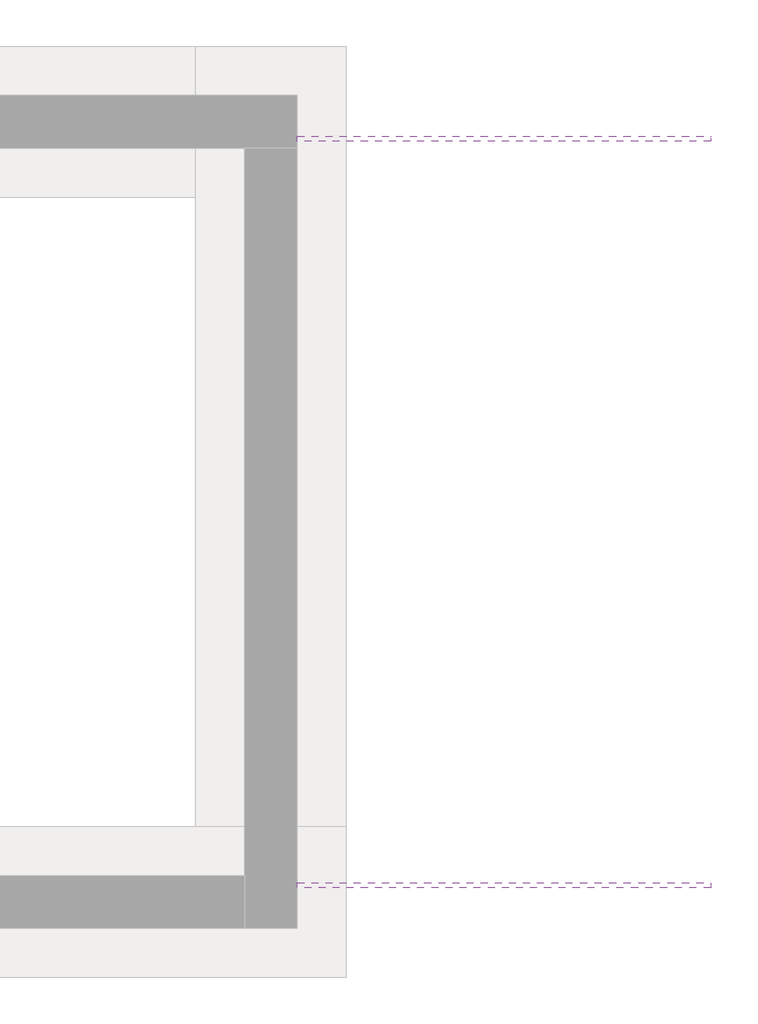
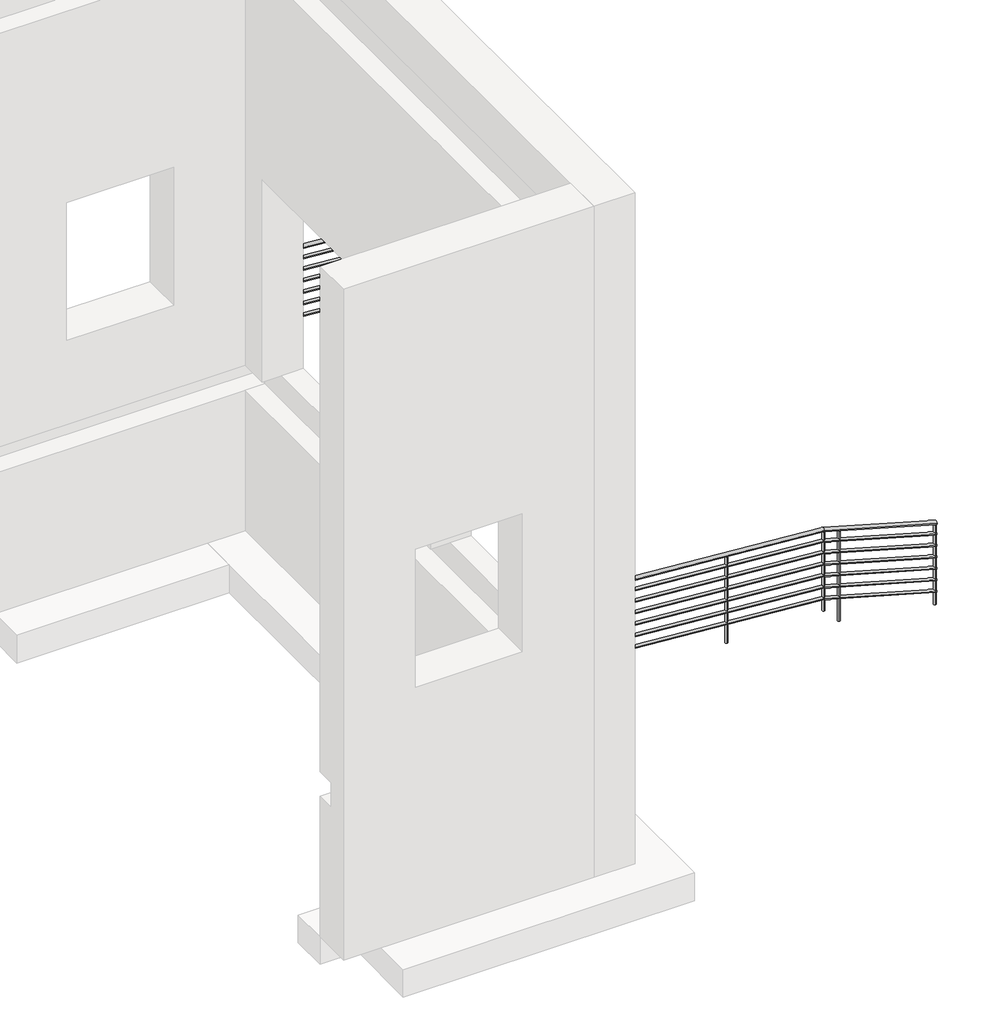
# One storey, part 5 of 5: 2 railings.
"""IFC4 building model written with IfcOpenShell, lengths in millimetres."""

from ifc_helpers import new_model, si_unit, frame, origin, place, context, project, spatial, circle_curve, ellipse_curve, element, save
from ifc_brep_helpers import plane_surface, cylinder_surface, advanced_brep

model = new_model("IFC4")

# Units and contexts
model_context = context("Model", 3, world=origin())
ifc_project = project(units=[si_unit("LENGTHUNIT", "METRE", prefix="MILLI")], contexts=[model_context])

# Site, building, storey
site = spatial("IfcSite", under=ifc_project)
building = spatial("IfcBuilding", under=site)
storey = spatial("IfcBuildingStorey", under=building, Name="Фундамент", Elevation=-1800.0)

# Railings
placement = place(None, origin())
element("IfcRailing", 1, ObjectType="Труба 900 мм", at=placement, inside=storey, context=model_context, shape_type="AdvancedBrep", body=[
    advanced_brep(
    [(15362.7882356, 11686.9976828, 550.6109056), (15362.7882356, 11646.9976828, 550.6109056), (14200.4184642, 11686.9976828, 880.1239979), (14200.4184642, 11646.9976828, 880.1239979), (12062.7882356, 11686.9976828, 1046.6061029), (12062.7882356, 11646.9976828, 1046.6061029)],
    [
        (0, 1, ellipse_curve(frame((15362.7882356, 11666.9976828, 550.6109056), z_axis=(1.0, 0.0, 0.0), x_axis=(0.0, 0.0, -1.0)), 20.7881034, 20.0)),
        (1, 0, ellipse_curve(frame((15362.7882356, 11666.9976828, 550.6109056), z_axis=(1.0, 0.0, 0.0), x_axis=(0.0, 0.0, -1.0)), 20.7881034, 20.0)),
        (0, 2),
        (2, 3, ellipse_curve(frame((14200.4184642, 11666.9976828, 880.1239979), z_axis=(0.9843797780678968, 0.0, -0.17605809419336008), x_axis=(-0.1760580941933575, 0.0, -0.9843797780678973)), 20.0989232, 20.0)),
        (3, 1),
        (3, 2, ellipse_curve(frame((14200.4184642, 11666.9976828, 880.1239979), z_axis=(0.9843797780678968, 0.0, -0.17605809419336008), x_axis=(-0.1760580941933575, 0.0, -0.9843797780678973)), 20.0989232, 20.0)),
        (4, 5, ellipse_curve(frame((12062.7882356, 11666.9976828, 1046.6061029), z_axis=(-1.0, 0.0, 0.0), x_axis=(0.0, 0.0, -1.0)), 20.0605638, 20.0)),
        (5, 4, ellipse_curve(frame((12062.7882356, 11666.9976828, 1046.6061029), z_axis=(-1.0, 0.0, 0.0), x_axis=(0.0, 0.0, -1.0)), 20.0605638, 20.0)),
        (2, 4),
        (5, 3),
    ],
    [
        plane_surface(frame((15362.7882356, 11666.9976828, 571.399009), z_axis=(1.0, 0.0, 0.0), x_axis=(0.0, -1.0, 0.0))),
        cylinder_surface(frame((15357.3335027, 11666.9976828, 552.1572344), z_axis=(0.9620887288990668, 0.0, -0.272736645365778), x_axis=(0.0, -1.0, 0.0)), 20.0),
        plane_surface(frame((12062.7882356, 11666.9976828, 1066.6666667), z_axis=(-1.0, 0.0, 0.0), x_axis=(0.0, -1.0, 0.0))),
        cylinder_surface(frame((14202.4041125, 11666.9976828, 879.9693524), z_axis=(0.9969809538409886, 0.0, -0.07764649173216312), x_axis=(0.0, -1.0, 0.0)), 20.0),
    ],
    [
        (0, [[1, 2]]),
        (1, [[-1, 3, 4, 5]]),
        (1, [[-2, -5, 6, -3]]),
        (2, [[7, 8]]),
        (3, [[-4, 9, -8, 10]]),
        (3, [[-6, -10, -7, -9]]),
    ],
),
    advanced_brep(
    [(15362.7882356, 11651.9976828, 430.8079314), (15362.7882356, 11681.9976828, 430.8079314), (14201.3031087, 11651.9976828, 760.0702413), (14201.3031087, 11681.9976828, 760.0702413), (12062.7882356, 11651.9976828, 926.6212438), (12062.7882356, 11681.9976828, 926.6212438)],
    [
        (0, 1, ellipse_curve(frame((15362.7882356, 11666.9976828, 430.8079314), z_axis=(1.0, 0.0, 0.0), x_axis=(0.0, 0.0, -1.0)), 15.5910776, 15.0)),
        (1, 0, ellipse_curve(frame((15362.7882356, 11666.9976828, 430.8079314), z_axis=(1.0, 0.0, 0.0), x_axis=(0.0, 0.0, -1.0)), 15.5910776, 15.0)),
        (0, 2),
        (2, 3, ellipse_curve(frame((14201.3031087, 11666.9976828, 760.0702413), z_axis=(0.9843797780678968, 0.0, -0.17605809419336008), x_axis=(-0.1760580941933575, 0.0, -0.9843797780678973)), 15.0741924, 15.0)),
        (3, 1),
        (3, 2, ellipse_curve(frame((14201.3031087, 11666.9976828, 760.0702413), z_axis=(0.9843797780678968, 0.0, -0.17605809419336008), x_axis=(-0.1760580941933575, 0.0, -0.9843797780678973)), 15.0741924, 15.0)),
        (4, 5, ellipse_curve(frame((12062.7882356, 11666.9976828, 926.6212438), z_axis=(-1.0, 0.0, 0.0), x_axis=(0.0, 0.0, -1.0)), 15.0454228, 15.0)),
        (5, 4, ellipse_curve(frame((12062.7882356, 11666.9976828, 926.6212438), z_axis=(-1.0, 0.0, 0.0), x_axis=(0.0, 0.0, -1.0)), 15.0454228, 15.0)),
        (2, 4),
        (5, 3),
    ],
    [
        plane_surface(frame((15362.7882356, 11666.9976828, 446.399009), z_axis=(1.0, 0.0, 0.0), x_axis=(0.0, -1.0, 0.0))),
        cylinder_surface(frame((15358.6971859, 11666.9976828, 431.9676781), z_axis=(0.9620887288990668, 0.0, -0.272736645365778), x_axis=(0.0, 1.0, 0.0)), 15.0),
        plane_surface(frame((12062.7882356, 11666.9976828, 941.6666667), z_axis=(-1.0, 0.0, 0.0), x_axis=(0.0, -1.0, 0.0))),
        cylinder_surface(frame((14202.7923449, 11666.9976828, 759.9542571), z_axis=(0.9969809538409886, 0.0, -0.07764649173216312), x_axis=(0.0, 1.0, 0.0)), 15.0),
    ],
    [
        (0, [[1, 2]]),
        (1, [[-1, 3, 4, 5]]),
        (1, [[-2, -5, 6, -3]]),
        (2, [[7, 8]]),
        (3, [[-4, 9, -8, 10]]),
        (3, [[-6, -10, -7, -9]]),
    ],
),
    advanced_brep(
    [(15362.7882356, 11651.9976828, 305.8079314), (15362.7882356, 11681.9976828, 305.8079314), (14201.3031087, 11651.9976828, 635.0702413), (14201.3031087, 11681.9976828, 635.0702413), (12062.7882356, 11651.9976828, 801.6212438), (12062.7882356, 11681.9976828, 801.6212438)],
    [
        (0, 1, ellipse_curve(frame((15362.7882356, 11666.9976828, 305.8079314), z_axis=(1.0, 0.0, 0.0), x_axis=(0.0, 0.0, -1.0)), 15.5910776, 15.0)),
        (1, 0, ellipse_curve(frame((15362.7882356, 11666.9976828, 305.8079314), z_axis=(1.0, 0.0, 0.0), x_axis=(0.0, 0.0, -1.0)), 15.5910776, 15.0)),
        (0, 2),
        (2, 3, ellipse_curve(frame((14201.3031087, 11666.9976828, 635.0702413), z_axis=(0.9843797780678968, 0.0, -0.17605809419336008), x_axis=(-0.1760580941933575, 0.0, -0.9843797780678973)), 15.0741924, 15.0)),
        (3, 1),
        (3, 2, ellipse_curve(frame((14201.3031087, 11666.9976828, 635.0702413), z_axis=(0.9843797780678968, 0.0, -0.17605809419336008), x_axis=(-0.1760580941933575, 0.0, -0.9843797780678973)), 15.0741924, 15.0)),
        (4, 5, ellipse_curve(frame((12062.7882356, 11666.9976828, 801.6212438), z_axis=(-1.0, 0.0, 0.0), x_axis=(0.0, 0.0, -1.0)), 15.0454228, 15.0)),
        (5, 4, ellipse_curve(frame((12062.7882356, 11666.9976828, 801.6212438), z_axis=(-1.0, 0.0, 0.0), x_axis=(0.0, 0.0, -1.0)), 15.0454228, 15.0)),
        (2, 4),
        (5, 3),
    ],
    [
        plane_surface(frame((15362.7882356, 11666.9976828, 321.399009), z_axis=(1.0, 0.0, 0.0), x_axis=(0.0, -1.0, 0.0))),
        cylinder_surface(frame((15358.6971859, 11666.9976828, 306.9676781), z_axis=(0.9620887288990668, 0.0, -0.272736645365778), x_axis=(0.0, 1.0, 0.0)), 15.0),
        plane_surface(frame((12062.7882356, 11666.9976828, 816.6666667), z_axis=(-1.0, 0.0, 0.0), x_axis=(0.0, -1.0, 0.0))),
        cylinder_surface(frame((14202.7923449, 11666.9976828, 634.9542571), z_axis=(0.9969809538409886, 0.0, -0.07764649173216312), x_axis=(0.0, 1.0, 0.0)), 15.0),
    ],
    [
        (0, [[1, 2]]),
        (1, [[-1, 3, 4, 5]]),
        (1, [[-2, -5, 6, -3]]),
        (2, [[7, 8]]),
        (3, [[-4, 9, -8, 10]]),
        (3, [[-6, -10, -7, -9]]),
    ],
),
    advanced_brep(
    [(15362.7882356, 11651.9976828, 180.8079314), (15362.7882356, 11681.9976828, 180.8079314), (14201.3031087, 11651.9976828, 510.0702413), (14201.3031087, 11681.9976828, 510.0702413), (12062.7882356, 11651.9976828, 676.6212438), (12062.7882356, 11681.9976828, 676.6212438)],
    [
        (0, 1, ellipse_curve(frame((15362.7882356, 11666.9976828, 180.8079314), z_axis=(1.0, 0.0, 0.0), x_axis=(0.0, 0.0, -1.0)), 15.5910776, 15.0)),
        (1, 0, ellipse_curve(frame((15362.7882356, 11666.9976828, 180.8079314), z_axis=(1.0, 0.0, 0.0), x_axis=(0.0, 0.0, -1.0)), 15.5910776, 15.0)),
        (0, 2),
        (2, 3, ellipse_curve(frame((14201.3031087, 11666.9976828, 510.0702413), z_axis=(0.9843797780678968, 0.0, -0.17605809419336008), x_axis=(-0.1760580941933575, 0.0, -0.9843797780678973)), 15.0741924, 15.0)),
        (3, 1),
        (3, 2, ellipse_curve(frame((14201.3031087, 11666.9976828, 510.0702413), z_axis=(0.9843797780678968, 0.0, -0.17605809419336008), x_axis=(-0.1760580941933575, 0.0, -0.9843797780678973)), 15.0741924, 15.0)),
        (4, 5, ellipse_curve(frame((12062.7882356, 11666.9976828, 676.6212438), z_axis=(-1.0, 0.0, 0.0), x_axis=(0.0, 0.0, -1.0)), 15.0454228, 15.0)),
        (5, 4, ellipse_curve(frame((12062.7882356, 11666.9976828, 676.6212438), z_axis=(-1.0, 0.0, 0.0), x_axis=(0.0, 0.0, -1.0)), 15.0454228, 15.0)),
        (2, 4),
        (5, 3),
    ],
    [
        plane_surface(frame((15362.7882356, 11666.9976828, 196.399009), z_axis=(1.0, 0.0, 0.0), x_axis=(0.0, -1.0, 0.0))),
        cylinder_surface(frame((15358.6971859, 11666.9976828, 181.9676781), z_axis=(0.9620887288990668, 0.0, -0.272736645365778), x_axis=(0.0, 1.0, 0.0)), 15.0),
        plane_surface(frame((12062.7882356, 11666.9976828, 691.6666667), z_axis=(-1.0, 0.0, 0.0), x_axis=(0.0, -1.0, 0.0))),
        cylinder_surface(frame((14202.7923449, 11666.9976828, 509.9542571), z_axis=(0.9969809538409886, 0.0, -0.07764649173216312), x_axis=(0.0, 1.0, 0.0)), 15.0),
    ],
    [
        (0, [[1, 2]]),
        (1, [[-1, 3, 4, 5]]),
        (1, [[-2, -5, 6, -3]]),
        (2, [[7, 8]]),
        (3, [[-4, 9, -8, 10]]),
        (3, [[-6, -10, -7, -9]]),
    ],
),
    advanced_brep(
    [(15362.7882356, 11651.9976828, 55.8079314), (15362.7882356, 11681.9976828, 55.8079314), (14201.3031087, 11651.9976828, 385.0702413), (14201.3031087, 11681.9976828, 385.0702413), (12062.7882356, 11651.9976828, 551.6212438), (12062.7882356, 11681.9976828, 551.6212438)],
    [
        (0, 1, ellipse_curve(frame((15362.7882356, 11666.9976828, 55.8079314), z_axis=(1.0, 0.0, 0.0), x_axis=(0.0, 0.0, -1.0)), 15.5910776, 15.0)),
        (1, 0, ellipse_curve(frame((15362.7882356, 11666.9976828, 55.8079314), z_axis=(1.0, 0.0, 0.0), x_axis=(0.0, 0.0, -1.0)), 15.5910776, 15.0)),
        (0, 2),
        (2, 3, ellipse_curve(frame((14201.3031087, 11666.9976828, 385.0702413), z_axis=(0.9843797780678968, 0.0, -0.17605809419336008), x_axis=(-0.1760580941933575, 0.0, -0.9843797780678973)), 15.0741924, 15.0)),
        (3, 1),
        (3, 2, ellipse_curve(frame((14201.3031087, 11666.9976828, 385.0702413), z_axis=(0.9843797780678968, 0.0, -0.17605809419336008), x_axis=(-0.1760580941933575, 0.0, -0.9843797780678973)), 15.0741924, 15.0)),
        (4, 5, ellipse_curve(frame((12062.7882356, 11666.9976828, 551.6212438), z_axis=(-1.0, 0.0, 0.0), x_axis=(0.0, 0.0, -1.0)), 15.0454228, 15.0)),
        (5, 4, ellipse_curve(frame((12062.7882356, 11666.9976828, 551.6212438), z_axis=(-1.0, 0.0, 0.0), x_axis=(0.0, 0.0, -1.0)), 15.0454228, 15.0)),
        (2, 4),
        (5, 3),
    ],
    [
        plane_surface(frame((15362.7882356, 11666.9976828, 71.399009), z_axis=(1.0, 0.0, 0.0), x_axis=(0.0, -1.0, 0.0))),
        cylinder_surface(frame((15358.6971859, 11666.9976828, 56.9676781), z_axis=(0.9620887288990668, 0.0, -0.272736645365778), x_axis=(0.0, 1.0, 0.0)), 15.0),
        plane_surface(frame((12062.7882356, 11666.9976828, 566.6666667), z_axis=(-1.0, 0.0, 0.0), x_axis=(0.0, -1.0, 0.0))),
        cylinder_surface(frame((14202.7923449, 11666.9976828, 384.9542571), z_axis=(0.9969809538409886, 0.0, -0.07764649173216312), x_axis=(0.0, 1.0, 0.0)), 15.0),
    ],
    [
        (0, [[1, 2]]),
        (1, [[-1, 3, 4, 5]]),
        (1, [[-2, -5, 6, -3]]),
        (2, [[7, 8]]),
        (3, [[-4, 9, -8, 10]]),
        (3, [[-6, -10, -7, -9]]),
    ],
),
    advanced_brep(
    [(15362.7882356, 11651.9976828, -69.1920686), (15362.7882356, 11681.9976828, -69.1920686), (14201.3031087, 11651.9976828, 260.0702413), (14201.3031087, 11681.9976828, 260.0702413), (12062.7882356, 11651.9976828, 426.6212438), (12062.7882356, 11681.9976828, 426.6212438)],
    [
        (0, 1, ellipse_curve(frame((15362.7882356, 11666.9976828, -69.1920686), z_axis=(1.0, 0.0, 0.0), x_axis=(0.0, 0.0, -1.0)), 15.5910776, 15.0)),
        (1, 0, ellipse_curve(frame((15362.7882356, 11666.9976828, -69.1920686), z_axis=(1.0, 0.0, 0.0), x_axis=(0.0, 0.0, -1.0)), 15.5910776, 15.0)),
        (0, 2),
        (2, 3, ellipse_curve(frame((14201.3031087, 11666.9976828, 260.0702413), z_axis=(0.9843797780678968, 0.0, -0.17605809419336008), x_axis=(-0.1760580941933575, 0.0, -0.9843797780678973)), 15.0741924, 15.0)),
        (3, 1),
        (3, 2, ellipse_curve(frame((14201.3031087, 11666.9976828, 260.0702413), z_axis=(0.9843797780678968, 0.0, -0.17605809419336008), x_axis=(-0.1760580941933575, 0.0, -0.9843797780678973)), 15.0741924, 15.0)),
        (4, 5, ellipse_curve(frame((12062.7882356, 11666.9976828, 426.6212438), z_axis=(-1.0, 0.0, 0.0), x_axis=(0.0, 0.0, -1.0)), 15.0454228, 15.0)),
        (5, 4, ellipse_curve(frame((12062.7882356, 11666.9976828, 426.6212438), z_axis=(-1.0, 0.0, 0.0), x_axis=(0.0, 0.0, -1.0)), 15.0454228, 15.0)),
        (2, 4),
        (5, 3),
    ],
    [
        plane_surface(frame((15362.7882356, 11666.9976828, -53.600991), z_axis=(1.0, 0.0, 0.0), x_axis=(0.0, -1.0, 0.0))),
        cylinder_surface(frame((15358.6971859, 11666.9976828, -68.0323219), z_axis=(0.9620887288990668, 0.0, -0.272736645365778), x_axis=(0.0, 1.0, 0.0)), 15.0),
        plane_surface(frame((12062.7882356, 11666.9976828, 441.6666667), z_axis=(-1.0, 0.0, 0.0), x_axis=(0.0, -1.0, 0.0))),
        cylinder_surface(frame((14202.7923449, 11666.9976828, 259.9542571), z_axis=(0.9969809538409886, 0.0, -0.07764649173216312), x_axis=(0.0, 1.0, 0.0)), 15.0),
    ],
    [
        (0, [[1, 2]]),
        (1, [[-1, 3, 4, 5]]),
        (1, [[-2, -5, 6, -3]]),
        (2, [[7, 8]]),
        (3, [[-4, 9, -8, 10]]),
        (3, [[-6, -10, -7, -9]]),
    ],
),
    advanced_brep(
    [(15362.7882356, 11651.9976828, -194.1920686), (15362.7882356, 11681.9976828, -194.1920686), (14201.3031087, 11651.9976828, 135.0702413), (14201.3031087, 11681.9976828, 135.0702413), (12062.7882356, 11651.9976828, 301.6212438), (12062.7882356, 11681.9976828, 301.6212438)],
    [
        (0, 1, ellipse_curve(frame((15362.7882356, 11666.9976828, -194.1920686), z_axis=(1.0, 0.0, 0.0), x_axis=(0.0, 0.0, -1.0)), 15.5910776, 15.0)),
        (1, 0, ellipse_curve(frame((15362.7882356, 11666.9976828, -194.1920686), z_axis=(1.0, 0.0, 0.0), x_axis=(0.0, 0.0, -1.0)), 15.5910776, 15.0)),
        (0, 2),
        (2, 3, ellipse_curve(frame((14201.3031087, 11666.9976828, 135.0702413), z_axis=(0.9843797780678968, 0.0, -0.17605809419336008), x_axis=(-0.1760580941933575, 0.0, -0.9843797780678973)), 15.0741924, 15.0)),
        (3, 1),
        (3, 2, ellipse_curve(frame((14201.3031087, 11666.9976828, 135.0702413), z_axis=(0.9843797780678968, 0.0, -0.17605809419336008), x_axis=(-0.1760580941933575, 0.0, -0.9843797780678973)), 15.0741924, 15.0)),
        (4, 5, ellipse_curve(frame((12062.7882356, 11666.9976828, 301.6212438), z_axis=(-1.0, 0.0, 0.0), x_axis=(0.0, 0.0, -1.0)), 15.0454228, 15.0)),
        (5, 4, ellipse_curve(frame((12062.7882356, 11666.9976828, 301.6212438), z_axis=(-1.0, 0.0, 0.0), x_axis=(0.0, 0.0, -1.0)), 15.0454228, 15.0)),
        (2, 4),
        (5, 3),
    ],
    [
        plane_surface(frame((15362.7882356, 11666.9976828, -178.600991), z_axis=(1.0, 0.0, 0.0), x_axis=(0.0, -1.0, 0.0))),
        cylinder_surface(frame((15358.6971859, 11666.9976828, -193.0323219), z_axis=(0.9620887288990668, 0.0, -0.272736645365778), x_axis=(0.0, 1.0, 0.0)), 15.0),
        plane_surface(frame((12062.7882356, 11666.9976828, 316.6666667), z_axis=(-1.0, 0.0, 0.0), x_axis=(0.0, -1.0, 0.0))),
        cylinder_surface(frame((14202.7923449, 11666.9976828, 134.9542571), z_axis=(0.9969809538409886, 0.0, -0.07764649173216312), x_axis=(0.0, 1.0, 0.0)), 15.0),
    ],
    [
        (0, [[1, 2]]),
        (1, [[-1, 3, 4, 5]]),
        (1, [[-2, -5, 6, -3]]),
        (2, [[7, 8]]),
        (3, [[-4, 9, -8, 10]]),
        (3, [[-6, -10, -7, -9]]),
    ],
),
    advanced_brep(
    [(12203.9570423, 11679.4976828, 1015.5510838), (12203.9570423, 11679.4976828, 0.0), (12203.9570423, 11654.4976828, 0.0), (12203.9570423, 11654.4976828, 1015.5510838)],
    [
        (0, 1),
        (1, 2, circle_curve(frame((12203.9570423, 11666.9976828, 0.0), z_axis=(0.0, 0.0, 1.0), x_axis=(0.0, -1.0, 0.0)), 12.5)),
        (2, 3),
        (3, 0, ellipse_curve(frame((12203.9570423, 11666.9976828, 1015.5510838), z_axis=(-0.07764649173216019, 0.0, -0.9969809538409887), x_axis=(-0.9969809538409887, 0.0, 0.07764649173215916)), 12.5378524, 12.5)),
        (0, 3, ellipse_curve(frame((12203.9570423, 11666.9976828, 1015.5510838), z_axis=(-0.07764649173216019, 0.0, -0.9969809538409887), x_axis=(-0.9969809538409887, 0.0, 0.07764649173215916)), 12.5378524, 12.5)),
        (2, 1, circle_curve(frame((12203.9570423, 11666.9976828, 0.0), z_axis=(0.0, 0.0, 1.0), x_axis=(0.0, -1.0, 0.0)), 12.5)),
    ],
    [
        cylinder_surface(frame((12203.9570423, 11666.9976828, -100.0), z_axis=(0.0, 0.0, 1.0), x_axis=(0.0, -1.0, 0.0)), 12.5),
        plane_surface(frame((12178.9570423, 11641.9976828, 1017.4981243), z_axis=(0.07764649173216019, 0.0, 0.9969809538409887), x_axis=(0.0, 1.0, 0.0))),
        plane_surface(frame((12228.9570423, 11641.9976828, 0.0), z_axis=(0.0, 0.0, -1.0), x_axis=(0.0, 1.0, 0.0))),
    ],
    [
        (0, [[1, 2, 3, 4]]),
        (0, [[-1, 5, -3, 6]]),
        (1, [[-4, -5]]),
        (2, [[-2, -6]]),
    ],
),
    advanced_brep(
    [(13203.9570423, 11679.4976828, 937.6694638), (13203.9570423, 11679.4976828, 0.0), (13203.9570423, 11654.4976828, 0.0), (13203.9570423, 11654.4976828, 937.6694638)],
    [
        (0, 1),
        (1, 2, circle_curve(frame((13203.9570423, 11666.9976828, 0.0), z_axis=(0.0, 0.0, 1.0), x_axis=(0.0, -1.0, 0.0)), 12.5)),
        (2, 3),
        (3, 0, ellipse_curve(frame((13203.9570423, 11666.9976828, 937.6694638), z_axis=(-0.07764649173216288, 0.0, -0.9969809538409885), x_axis=(-0.9969809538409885, 0.0, 0.0776464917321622)), 12.5378524, 12.5)),
        (0, 3, ellipse_curve(frame((13203.9570423, 11666.9976828, 937.6694638), z_axis=(-0.07764649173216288, 0.0, -0.9969809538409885), x_axis=(-0.9969809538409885, 0.0, 0.0776464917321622)), 12.5378524, 12.5)),
        (2, 1, circle_curve(frame((13203.9570423, 11666.9976828, 0.0), z_axis=(0.0, 0.0, 1.0), x_axis=(0.0, -1.0, 0.0)), 12.5)),
    ],
    [
        cylinder_surface(frame((13203.9570423, 11666.9976828, -100.0), z_axis=(0.0, 0.0, 1.0), x_axis=(0.0, -1.0, 0.0)), 12.5),
        plane_surface(frame((13178.9570423, 11641.9976828, 939.6165043), z_axis=(0.07764649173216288, 0.0, 0.9969809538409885), x_axis=(0.0, 1.0, 0.0))),
        plane_surface(frame((13228.9570423, 11641.9976828, 0.0), z_axis=(0.0, 0.0, -1.0), x_axis=(0.0, 1.0, 0.0))),
    ],
    [
        (0, [[1, 2, 3, 4]]),
        (0, [[-1, 5, -3, 6]]),
        (1, [[-4, -5]]),
        (2, [[-2, -6]]),
    ],
),
    advanced_brep(
    [(14362.7882356, 11679.4976828, 813.3066817), (14362.7882356, 11679.4976828, -166.6666667), (14362.7882356, 11654.4976828, -166.6666667), (14362.7882356, 11654.4976828, 813.3066817)],
    [
        (0, 1),
        (1, 2, circle_curve(frame((14362.7882356, 11666.9976828, -166.6666667), z_axis=(0.0, 0.0, 1.0), x_axis=(0.0, -1.0, 0.0)), 12.5)),
        (2, 3),
        (3, 0, ellipse_curve(frame((14362.7882356, 11666.9976828, 813.3066817), z_axis=(-0.27273664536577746, 0.0, -0.9620887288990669), x_axis=(-0.9620887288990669, 0.0, 0.27273664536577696)), 12.9925646, 12.5)),
        (0, 3, ellipse_curve(frame((14362.7882356, 11666.9976828, 813.3066817), z_axis=(-0.27273664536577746, 0.0, -0.9620887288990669), x_axis=(-0.9620887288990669, 0.0, 0.27273664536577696)), 12.9925646, 12.5)),
        (2, 1, circle_curve(frame((14362.7882356, 11666.9976828, -166.6666667), z_axis=(0.0, 0.0, 1.0), x_axis=(0.0, -1.0, 0.0)), 12.5)),
    ],
    [
        cylinder_surface(frame((14362.7882356, 11666.9976828, -266.6666667), z_axis=(0.0, 0.0, 1.0), x_axis=(0.0, -1.0, 0.0)), 12.5),
        plane_surface(frame((14337.7882356, 11641.9976828, 820.3937787), z_axis=(0.27273664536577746, 0.0, 0.9620887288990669), x_axis=(0.0, 1.0, 0.0))),
        plane_surface(frame((14387.7882356, 11641.9976828, -166.6666667), z_axis=(0.0, 0.0, -1.0), x_axis=(0.0, 1.0, 0.0))),
    ],
    [
        (0, [[1, 2, 3, 4]]),
        (0, [[-1, 5, -3, 6]]),
        (1, [[-4, -5]]),
        (2, [[-2, -6]]),
    ],
),
    advanced_brep(
    [(14203.9570423, 11679.4976828, 859.7878439), (14203.9570423, 11679.4976828, -0.0910286), (14203.9570423, 11654.4976828, -0.0910286), (14203.9570423, 11654.4976828, 859.7878439)],
    [
        (0, 1),
        (1, 2, circle_curve(frame((14203.9570423, 11666.9976828, -0.0910286), z_axis=(0.0, 0.0, 1.0), x_axis=(0.0, -1.0, 0.0)), 12.5)),
        (2, 3),
        (3, 0, ellipse_curve(frame((14203.9570423, 11666.9976828, 859.7878439), z_axis=(-0.07764649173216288, 0.0, -0.9969809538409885), x_axis=(-0.9969809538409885, 0.0, 0.0776464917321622)), 12.5378524, 12.5)),
        (0, 3, ellipse_curve(frame((14203.9570423, 11666.9976828, 859.7878439), z_axis=(-0.07764649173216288, 0.0, -0.9969809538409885), x_axis=(-0.9969809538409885, 0.0, 0.0776464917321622)), 12.5378524, 12.5)),
        (2, 1, circle_curve(frame((14203.9570423, 11666.9976828, -0.0910286), z_axis=(0.0, 0.0, 1.0), x_axis=(0.0, -1.0, 0.0)), 12.5)),
    ],
    [
        cylinder_surface(frame((14203.9570423, 11666.9976828, -100.0910286), z_axis=(0.0, 0.0, 1.0), x_axis=(0.0, -1.0, 0.0)), 12.5),
        plane_surface(frame((14178.9570423, 11641.9976828, 861.7348844), z_axis=(0.07764649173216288, 0.0, 0.9969809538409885), x_axis=(0.0, 1.0, 0.0))),
        plane_surface(frame((14228.9570423, 11641.9976828, -0.0910286), z_axis=(0.0, 0.0, -1.0), x_axis=(0.0, 1.0, 0.0))),
    ],
    [
        (0, [[1, 2, 3, 4]]),
        (0, [[-1, 5, -3, 6]]),
        (1, [[-4, -5]]),
        (2, [[-2, -6]]),
    ],
),
    advanced_brep(
    [(12075.2882356, 11679.4976828, 1025.5720189), (12075.2882356, 11679.4976828, 0.0), (12075.2882356, 11654.4976828, 0.0), (12075.2882356, 11654.4976828, 1025.5720189)],
    [
        (0, 1),
        (1, 2, circle_curve(frame((12075.2882356, 11666.9976828, 0.0), z_axis=(0.0, 0.0, 1.0), x_axis=(0.0, -1.0, 0.0)), 12.5)),
        (2, 3),
        (3, 0, ellipse_curve(frame((12075.2882356, 11666.9976828, 1025.5720189), z_axis=(-0.07764649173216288, 0.0, -0.9969809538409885), x_axis=(-0.9969809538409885, 0.0, 0.0776464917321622)), 12.5378524, 12.5)),
        (0, 3, ellipse_curve(frame((12075.2882356, 11666.9976828, 1025.5720189), z_axis=(-0.07764649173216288, 0.0, -0.9969809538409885), x_axis=(-0.9969809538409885, 0.0, 0.0776464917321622)), 12.5378524, 12.5)),
        (2, 1, circle_curve(frame((12075.2882356, 11666.9976828, 0.0), z_axis=(0.0, 0.0, 1.0), x_axis=(0.0, -1.0, 0.0)), 12.5)),
    ],
    [
        cylinder_surface(frame((12075.2882356, 11666.9976828, -100.0), z_axis=(0.0, 0.0, 1.0), x_axis=(0.0, -1.0, 0.0)), 12.5),
        plane_surface(frame((12050.2882356, 11641.9976828, 1027.5190594), z_axis=(0.07764649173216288, 0.0, 0.9969809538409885), x_axis=(0.0, 1.0, 0.0))),
        plane_surface(frame((12100.2882356, 11641.9976828, 0.0), z_axis=(0.0, 0.0, -1.0), x_axis=(0.0, 1.0, 0.0))),
    ],
    [
        (0, [[1, 2, 3, 4]]),
        (0, [[-1, 5, -3, 6]]),
        (1, [[-4, -5]]),
        (2, [[-2, -6]]),
    ],
),
    advanced_brep(
    [(15350.2882356, 11679.4976828, 533.3663506), (15350.2882356, 11679.4976828, -333.3333333), (15350.2882356, 11654.4976828, -333.3333333), (15350.2882356, 11654.4976828, 533.3663506)],
    [
        (0, 1),
        (1, 2, circle_curve(frame((15350.2882356, 11666.9976828, -333.3333333), z_axis=(0.0, 0.0, 1.0), x_axis=(0.0, -1.0, 0.0)), 12.5)),
        (2, 3),
        (3, 0, ellipse_curve(frame((15350.2882356, 11666.9976828, 533.3663506), z_axis=(-0.27273664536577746, 0.0, -0.9620887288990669), x_axis=(-0.9620887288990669, 0.0, 0.27273664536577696)), 12.9925646, 12.5)),
        (0, 3, ellipse_curve(frame((15350.2882356, 11666.9976828, 533.3663506), z_axis=(-0.27273664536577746, 0.0, -0.9620887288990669), x_axis=(-0.9620887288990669, 0.0, 0.27273664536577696)), 12.9925646, 12.5)),
        (2, 1, circle_curve(frame((15350.2882356, 11666.9976828, -333.3333333), z_axis=(0.0, 0.0, 1.0), x_axis=(0.0, -1.0, 0.0)), 12.5)),
    ],
    [
        cylinder_surface(frame((15350.2882356, 11666.9976828, -433.3333333), z_axis=(0.0, 0.0, 1.0), x_axis=(0.0, -1.0, 0.0)), 12.5),
        plane_surface(frame((15325.2882356, 11641.9976828, 540.4534476), z_axis=(0.27273664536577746, 0.0, 0.9620887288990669), x_axis=(0.0, 1.0, 0.0))),
        plane_surface(frame((15375.2882356, 11641.9976828, -333.3333333), z_axis=(0.0, 0.0, -1.0), x_axis=(0.0, 1.0, 0.0))),
    ],
    [
        (0, [[1, 2, 3, 4]]),
        (0, [[-1, 5, -3, 6]]),
        (1, [[-4, -5]]),
        (2, [[-2, -6]]),
    ],
),
])
element("IfcRailing", 2, ObjectType="Труба 900 мм", at=placement, inside=storey, context=model_context, shape_type="AdvancedBrep", body=[
    advanced_brep(
    [(15362.7882356, 5737.7976828, 550.6109056), (15362.7882356, 5697.7976828, 550.6109056), (14200.4184642, 5737.7976828, 880.1239979), (14200.4184642, 5697.7976828, 880.1239979), (12062.7882356, 5737.7976828, 1046.6061029), (12062.7882356, 5697.7976828, 1046.6061029)],
    [
        (0, 1, ellipse_curve(frame((15362.7882356, 5717.7976828, 550.6109056), z_axis=(1.0, 0.0, 0.0), x_axis=(0.0, 0.0, -1.0)), 20.7881034, 20.0)),
        (1, 0, ellipse_curve(frame((15362.7882356, 5717.7976828, 550.6109056), z_axis=(1.0, 0.0, 0.0), x_axis=(0.0, 0.0, -1.0)), 20.7881034, 20.0)),
        (0, 2),
        (2, 3, ellipse_curve(frame((14200.4184642, 5717.7976828, 880.1239979), z_axis=(0.9843797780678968, 0.0, -0.17605809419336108), x_axis=(-0.17605809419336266, 0.0, -0.9843797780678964)), 20.0989232, 20.0)),
        (3, 1),
        (3, 2, ellipse_curve(frame((14200.4184642, 5717.7976828, 880.1239979), z_axis=(0.9843797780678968, 0.0, -0.17605809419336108), x_axis=(-0.17605809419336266, 0.0, -0.9843797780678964)), 20.0989232, 20.0)),
        (4, 5, ellipse_curve(frame((12062.7882356, 5717.7976828, 1046.6061029), z_axis=(-1.0, 0.0, 0.0), x_axis=(0.0, 0.0, -1.0)), 20.0605638, 20.0)),
        (5, 4, ellipse_curve(frame((12062.7882356, 5717.7976828, 1046.6061029), z_axis=(-1.0, 0.0, 0.0), x_axis=(0.0, 0.0, -1.0)), 20.0605638, 20.0)),
        (2, 4),
        (5, 3),
    ],
    [
        plane_surface(frame((15362.7882356, 5717.7976828, 571.399009), z_axis=(1.0, 0.0, 0.0), x_axis=(0.0, -1.0, 0.0))),
        cylinder_surface(frame((15357.3335027, 5717.7976828, 552.1572344), z_axis=(0.9620887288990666, 0.0, -0.2727366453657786), x_axis=(0.0, -1.0, 0.0)), 20.0),
        plane_surface(frame((12062.7882356, 5717.7976828, 1066.6666667), z_axis=(-1.0, 0.0, 0.0), x_axis=(0.0, -1.0, 0.0))),
        cylinder_surface(frame((14202.4041125, 5717.7976828, 879.9693524), z_axis=(0.9969809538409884, 0.0, -0.07764649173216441), x_axis=(0.0, -1.0, 0.0)), 20.0),
    ],
    [
        (0, [[1, 2]]),
        (1, [[-1, 3, 4, 5]]),
        (1, [[-2, -5, 6, -3]]),
        (2, [[7, 8]]),
        (3, [[-4, 9, -8, 10]]),
        (3, [[-6, -10, -7, -9]]),
    ],
),
    advanced_brep(
    [(15362.7882356, 5732.7976828, 430.8079314), (15362.7882356, 5702.7976828, 430.8079314), (14201.3031087, 5732.7976828, 760.0702413), (14201.3031087, 5702.7976828, 760.0702413), (12062.7882356, 5732.7976828, 926.6212438), (12062.7882356, 5702.7976828, 926.6212438)],
    [
        (0, 1, ellipse_curve(frame((15362.7882356, 5717.7976828, 430.8079314), z_axis=(1.0, 0.0, 0.0), x_axis=(0.0, 0.0, -1.0)), 15.5910776, 15.0)),
        (1, 0, ellipse_curve(frame((15362.7882356, 5717.7976828, 430.8079314), z_axis=(1.0, 0.0, 0.0), x_axis=(0.0, 0.0, -1.0)), 15.5910776, 15.0)),
        (0, 2),
        (2, 3, ellipse_curve(frame((14201.3031087, 5717.7976828, 760.0702413), z_axis=(0.9843797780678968, 0.0, -0.17605809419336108), x_axis=(-0.17605809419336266, 0.0, -0.9843797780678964)), 15.0741924, 15.0)),
        (3, 1),
        (3, 2, ellipse_curve(frame((14201.3031087, 5717.7976828, 760.0702413), z_axis=(0.9843797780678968, 0.0, -0.17605809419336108), x_axis=(-0.17605809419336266, 0.0, -0.9843797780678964)), 15.0741924, 15.0)),
        (4, 5, ellipse_curve(frame((12062.7882356, 5717.7976828, 926.6212438), z_axis=(-1.0, 0.0, 0.0), x_axis=(0.0, 0.0, -1.0)), 15.0454228, 15.0)),
        (5, 4, ellipse_curve(frame((12062.7882356, 5717.7976828, 926.6212438), z_axis=(-1.0, 0.0, 0.0), x_axis=(0.0, 0.0, -1.0)), 15.0454228, 15.0)),
        (2, 4),
        (5, 3),
    ],
    [
        plane_surface(frame((15362.7882356, 5717.7976828, 446.399009), z_axis=(1.0, 0.0, 0.0), x_axis=(0.0, -1.0, 0.0))),
        cylinder_surface(frame((15358.6971859, 5717.7976828, 431.9676781), z_axis=(0.9620887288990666, 0.0, -0.2727366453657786), x_axis=(0.0, -1.0, 0.0)), 15.0),
        plane_surface(frame((12062.7882356, 5717.7976828, 941.6666667), z_axis=(-1.0, 0.0, 0.0), x_axis=(0.0, -1.0, 0.0))),
        cylinder_surface(frame((14202.7923449, 5717.7976828, 759.9542571), z_axis=(0.9969809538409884, 0.0, -0.07764649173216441), x_axis=(0.0, -1.0, 0.0)), 15.0),
    ],
    [
        (0, [[1, 2]]),
        (1, [[-1, 3, 4, 5]]),
        (1, [[-2, -5, 6, -3]]),
        (2, [[7, 8]]),
        (3, [[-4, 9, -8, 10]]),
        (3, [[-6, -10, -7, -9]]),
    ],
),
    advanced_brep(
    [(15362.7882356, 5732.7976828, 305.8079314), (15362.7882356, 5702.7976828, 305.8079314), (14201.3031087, 5732.7976828, 635.0702413), (14201.3031087, 5702.7976828, 635.0702413), (12062.7882356, 5732.7976828, 801.6212438), (12062.7882356, 5702.7976828, 801.6212438)],
    [
        (0, 1, ellipse_curve(frame((15362.7882356, 5717.7976828, 305.8079314), z_axis=(1.0, 0.0, 0.0), x_axis=(0.0, 0.0, -1.0)), 15.5910776, 15.0)),
        (1, 0, ellipse_curve(frame((15362.7882356, 5717.7976828, 305.8079314), z_axis=(1.0, 0.0, 0.0), x_axis=(0.0, 0.0, -1.0)), 15.5910776, 15.0)),
        (0, 2),
        (2, 3, ellipse_curve(frame((14201.3031087, 5717.7976828, 635.0702413), z_axis=(0.9843797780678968, 0.0, -0.17605809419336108), x_axis=(-0.17605809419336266, 0.0, -0.9843797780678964)), 15.0741924, 15.0)),
        (3, 1),
        (3, 2, ellipse_curve(frame((14201.3031087, 5717.7976828, 635.0702413), z_axis=(0.9843797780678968, 0.0, -0.17605809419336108), x_axis=(-0.17605809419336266, 0.0, -0.9843797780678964)), 15.0741924, 15.0)),
        (4, 5, ellipse_curve(frame((12062.7882356, 5717.7976828, 801.6212438), z_axis=(-1.0, 0.0, 0.0), x_axis=(0.0, 0.0, -1.0)), 15.0454228, 15.0)),
        (5, 4, ellipse_curve(frame((12062.7882356, 5717.7976828, 801.6212438), z_axis=(-1.0, 0.0, 0.0), x_axis=(0.0, 0.0, -1.0)), 15.0454228, 15.0)),
        (2, 4),
        (5, 3),
    ],
    [
        plane_surface(frame((15362.7882356, 5717.7976828, 321.399009), z_axis=(1.0, 0.0, 0.0), x_axis=(0.0, -1.0, 0.0))),
        cylinder_surface(frame((15358.6971859, 5717.7976828, 306.9676781), z_axis=(0.9620887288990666, 0.0, -0.2727366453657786), x_axis=(0.0, -1.0, 0.0)), 15.0),
        plane_surface(frame((12062.7882356, 5717.7976828, 816.6666667), z_axis=(-1.0, 0.0, 0.0), x_axis=(0.0, -1.0, 0.0))),
        cylinder_surface(frame((14202.7923449, 5717.7976828, 634.9542571), z_axis=(0.9969809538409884, 0.0, -0.07764649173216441), x_axis=(0.0, -1.0, 0.0)), 15.0),
    ],
    [
        (0, [[1, 2]]),
        (1, [[-1, 3, 4, 5]]),
        (1, [[-2, -5, 6, -3]]),
        (2, [[7, 8]]),
        (3, [[-4, 9, -8, 10]]),
        (3, [[-6, -10, -7, -9]]),
    ],
),
    advanced_brep(
    [(15362.7882356, 5732.7976828, 180.8079314), (15362.7882356, 5702.7976828, 180.8079314), (14201.3031087, 5732.7976828, 510.0702413), (14201.3031087, 5702.7976828, 510.0702413), (12062.7882356, 5732.7976828, 676.6212438), (12062.7882356, 5702.7976828, 676.6212438)],
    [
        (0, 1, ellipse_curve(frame((15362.7882356, 5717.7976828, 180.8079314), z_axis=(1.0, 0.0, 0.0), x_axis=(0.0, 0.0, -1.0)), 15.5910776, 15.0)),
        (1, 0, ellipse_curve(frame((15362.7882356, 5717.7976828, 180.8079314), z_axis=(1.0, 0.0, 0.0), x_axis=(0.0, 0.0, -1.0)), 15.5910776, 15.0)),
        (0, 2),
        (2, 3, ellipse_curve(frame((14201.3031087, 5717.7976828, 510.0702413), z_axis=(0.9843797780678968, 0.0, -0.17605809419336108), x_axis=(-0.17605809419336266, 0.0, -0.9843797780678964)), 15.0741924, 15.0)),
        (3, 1),
        (3, 2, ellipse_curve(frame((14201.3031087, 5717.7976828, 510.0702413), z_axis=(0.9843797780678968, 0.0, -0.17605809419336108), x_axis=(-0.17605809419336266, 0.0, -0.9843797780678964)), 15.0741924, 15.0)),
        (4, 5, ellipse_curve(frame((12062.7882356, 5717.7976828, 676.6212438), z_axis=(-1.0, 0.0, 0.0), x_axis=(0.0, 0.0, -1.0)), 15.0454228, 15.0)),
        (5, 4, ellipse_curve(frame((12062.7882356, 5717.7976828, 676.6212438), z_axis=(-1.0, 0.0, 0.0), x_axis=(0.0, 0.0, -1.0)), 15.0454228, 15.0)),
        (2, 4),
        (5, 3),
    ],
    [
        plane_surface(frame((15362.7882356, 5717.7976828, 196.399009), z_axis=(1.0, 0.0, 0.0), x_axis=(0.0, -1.0, 0.0))),
        cylinder_surface(frame((15358.6971859, 5717.7976828, 181.9676781), z_axis=(0.9620887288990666, 0.0, -0.2727366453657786), x_axis=(0.0, -1.0, 0.0)), 15.0),
        plane_surface(frame((12062.7882356, 5717.7976828, 691.6666667), z_axis=(-1.0, 0.0, 0.0), x_axis=(0.0, -1.0, 0.0))),
        cylinder_surface(frame((14202.7923449, 5717.7976828, 509.9542571), z_axis=(0.9969809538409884, 0.0, -0.07764649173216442), x_axis=(0.0, -1.0, 0.0)), 15.0),
    ],
    [
        (0, [[1, 2]]),
        (1, [[-1, 3, 4, 5]]),
        (1, [[-2, -5, 6, -3]]),
        (2, [[7, 8]]),
        (3, [[-4, 9, -8, 10]]),
        (3, [[-6, -10, -7, -9]]),
    ],
),
    advanced_brep(
    [(15362.7882356, 5732.7976828, 55.8079314), (15362.7882356, 5702.7976828, 55.8079314), (14201.3031087, 5732.7976828, 385.0702413), (14201.3031087, 5702.7976828, 385.0702413), (12062.7882356, 5732.7976828, 551.6212438), (12062.7882356, 5702.7976828, 551.6212438)],
    [
        (0, 1, ellipse_curve(frame((15362.7882356, 5717.7976828, 55.8079314), z_axis=(1.0, 0.0, 0.0), x_axis=(0.0, 0.0, -1.0)), 15.5910776, 15.0)),
        (1, 0, ellipse_curve(frame((15362.7882356, 5717.7976828, 55.8079314), z_axis=(1.0, 0.0, 0.0), x_axis=(0.0, 0.0, -1.0)), 15.5910776, 15.0)),
        (0, 2),
        (2, 3, ellipse_curve(frame((14201.3031087, 5717.7976828, 385.0702413), z_axis=(0.9843797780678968, 0.0, -0.17605809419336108), x_axis=(-0.17605809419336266, 0.0, -0.9843797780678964)), 15.0741924, 15.0)),
        (3, 1),
        (3, 2, ellipse_curve(frame((14201.3031087, 5717.7976828, 385.0702413), z_axis=(0.9843797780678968, 0.0, -0.17605809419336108), x_axis=(-0.17605809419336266, 0.0, -0.9843797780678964)), 15.0741924, 15.0)),
        (4, 5, ellipse_curve(frame((12062.7882356, 5717.7976828, 551.6212438), z_axis=(-1.0, 0.0, 0.0), x_axis=(0.0, 0.0, -1.0)), 15.0454228, 15.0)),
        (5, 4, ellipse_curve(frame((12062.7882356, 5717.7976828, 551.6212438), z_axis=(-1.0, 0.0, 0.0), x_axis=(0.0, 0.0, -1.0)), 15.0454228, 15.0)),
        (2, 4),
        (5, 3),
    ],
    [
        plane_surface(frame((15362.7882356, 5717.7976828, 71.399009), z_axis=(1.0, 0.0, 0.0), x_axis=(0.0, -1.0, 0.0))),
        cylinder_surface(frame((15358.6971859, 5717.7976828, 56.9676781), z_axis=(0.9620887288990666, 0.0, -0.2727366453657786), x_axis=(0.0, -1.0, 0.0)), 15.0),
        plane_surface(frame((12062.7882356, 5717.7976828, 566.6666667), z_axis=(-1.0, 0.0, 0.0), x_axis=(0.0, -1.0, 0.0))),
        cylinder_surface(frame((14202.7923449, 5717.7976828, 384.9542571), z_axis=(0.9969809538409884, 0.0, -0.07764649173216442), x_axis=(0.0, -1.0, 0.0)), 15.0),
    ],
    [
        (0, [[1, 2]]),
        (1, [[-1, 3, 4, 5]]),
        (1, [[-2, -5, 6, -3]]),
        (2, [[7, 8]]),
        (3, [[-4, 9, -8, 10]]),
        (3, [[-6, -10, -7, -9]]),
    ],
),
    advanced_brep(
    [(15362.7882356, 5732.7976828, -69.1920686), (15362.7882356, 5702.7976828, -69.1920686), (14201.3031087, 5732.7976828, 260.0702413), (14201.3031087, 5702.7976828, 260.0702413), (12062.7882356, 5732.7976828, 426.6212438), (12062.7882356, 5702.7976828, 426.6212438)],
    [
        (0, 1, ellipse_curve(frame((15362.7882356, 5717.7976828, -69.1920686), z_axis=(1.0, 0.0, 0.0), x_axis=(0.0, 0.0, -1.0)), 15.5910776, 15.0)),
        (1, 0, ellipse_curve(frame((15362.7882356, 5717.7976828, -69.1920686), z_axis=(1.0, 0.0, 0.0), x_axis=(0.0, 0.0, -1.0)), 15.5910776, 15.0)),
        (0, 2),
        (2, 3, ellipse_curve(frame((14201.3031087, 5717.7976828, 260.0702413), z_axis=(0.9843797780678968, 0.0, -0.17605809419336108), x_axis=(-0.17605809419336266, 0.0, -0.9843797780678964)), 15.0741924, 15.0)),
        (3, 1),
        (3, 2, ellipse_curve(frame((14201.3031087, 5717.7976828, 260.0702413), z_axis=(0.9843797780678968, 0.0, -0.17605809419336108), x_axis=(-0.17605809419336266, 0.0, -0.9843797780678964)), 15.0741924, 15.0)),
        (4, 5, ellipse_curve(frame((12062.7882356, 5717.7976828, 426.6212438), z_axis=(-1.0, 0.0, 0.0), x_axis=(0.0, 0.0, -1.0)), 15.0454228, 15.0)),
        (5, 4, ellipse_curve(frame((12062.7882356, 5717.7976828, 426.6212438), z_axis=(-1.0, 0.0, 0.0), x_axis=(0.0, 0.0, -1.0)), 15.0454228, 15.0)),
        (2, 4),
        (5, 3),
    ],
    [
        plane_surface(frame((15362.7882356, 5717.7976828, -53.600991), z_axis=(1.0, 0.0, 0.0), x_axis=(0.0, -1.0, 0.0))),
        cylinder_surface(frame((15358.6971859, 5717.7976828, -68.0323219), z_axis=(0.9620887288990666, 0.0, -0.2727366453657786), x_axis=(0.0, -1.0, 0.0)), 15.0),
        plane_surface(frame((12062.7882356, 5717.7976828, 441.6666667), z_axis=(-1.0, 0.0, 0.0), x_axis=(0.0, -1.0, 0.0))),
        cylinder_surface(frame((14202.7923449, 5717.7976828, 259.9542571), z_axis=(0.9969809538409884, 0.0, -0.07764649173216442), x_axis=(0.0, -1.0, 0.0)), 15.0),
    ],
    [
        (0, [[1, 2]]),
        (1, [[-1, 3, 4, 5]]),
        (1, [[-2, -5, 6, -3]]),
        (2, [[7, 8]]),
        (3, [[-4, 9, -8, 10]]),
        (3, [[-6, -10, -7, -9]]),
    ],
),
    advanced_brep(
    [(15362.7882356, 5732.7976828, -194.1920686), (15362.7882356, 5702.7976828, -194.1920686), (14201.3031087, 5732.7976828, 135.0702413), (14201.3031087, 5702.7976828, 135.0702413), (12062.7882356, 5732.7976828, 301.6212438), (12062.7882356, 5702.7976828, 301.6212438)],
    [
        (0, 1, ellipse_curve(frame((15362.7882356, 5717.7976828, -194.1920686), z_axis=(1.0, 0.0, 0.0), x_axis=(0.0, 0.0, -1.0)), 15.5910776, 15.0)),
        (1, 0, ellipse_curve(frame((15362.7882356, 5717.7976828, -194.1920686), z_axis=(1.0, 0.0, 0.0), x_axis=(0.0, 0.0, -1.0)), 15.5910776, 15.0)),
        (0, 2),
        (2, 3, ellipse_curve(frame((14201.3031087, 5717.7976828, 135.0702413), z_axis=(0.9843797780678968, 0.0, -0.17605809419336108), x_axis=(-0.17605809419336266, 0.0, -0.9843797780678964)), 15.0741924, 15.0)),
        (3, 1),
        (3, 2, ellipse_curve(frame((14201.3031087, 5717.7976828, 135.0702413), z_axis=(0.9843797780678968, 0.0, -0.17605809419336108), x_axis=(-0.17605809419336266, 0.0, -0.9843797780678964)), 15.0741924, 15.0)),
        (4, 5, ellipse_curve(frame((12062.7882356, 5717.7976828, 301.6212438), z_axis=(-1.0, 0.0, 0.0), x_axis=(0.0, 0.0, -1.0)), 15.0454228, 15.0)),
        (5, 4, ellipse_curve(frame((12062.7882356, 5717.7976828, 301.6212438), z_axis=(-1.0, 0.0, 0.0), x_axis=(0.0, 0.0, -1.0)), 15.0454228, 15.0)),
        (2, 4),
        (5, 3),
    ],
    [
        plane_surface(frame((15362.7882356, 5717.7976828, -178.600991), z_axis=(1.0, 0.0, 0.0), x_axis=(0.0, -1.0, 0.0))),
        cylinder_surface(frame((15358.6971859, 5717.7976828, -193.0323219), z_axis=(0.9620887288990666, 0.0, -0.2727366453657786), x_axis=(0.0, -1.0, 0.0)), 15.0),
        plane_surface(frame((12062.7882356, 5717.7976828, 316.6666667), z_axis=(-1.0, 0.0, 0.0), x_axis=(0.0, -1.0, 0.0))),
        cylinder_surface(frame((14202.7923449, 5717.7976828, 134.9542571), z_axis=(0.9969809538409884, 0.0, -0.07764649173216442), x_axis=(0.0, -1.0, 0.0)), 15.0),
    ],
    [
        (0, [[1, 2]]),
        (1, [[-1, 3, 4, 5]]),
        (1, [[-2, -5, 6, -3]]),
        (2, [[7, 8]]),
        (3, [[-4, 9, -8, 10]]),
        (3, [[-6, -10, -7, -9]]),
    ],
),
    advanced_brep(
    [(12203.9570423, 5705.2976828, 1015.5510838), (12203.9570423, 5730.2976828, 1015.5510838), (12203.9570423, 5730.2976828, 0.0), (12203.9570423, 5705.2976828, 0.0)],
    [
        (0, 1, ellipse_curve(frame((12203.9570423, 5717.7976828, 1015.5510838), z_axis=(-0.07764649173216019, 0.0, -0.9969809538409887), x_axis=(-0.9969809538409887, 0.0, 0.07764649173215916)), 12.5378524, 12.5)),
        (1, 2),
        (2, 3, circle_curve(frame((12203.9570423, 5717.7976828, 0.0), z_axis=(0.0, 0.0, 1.0), x_axis=(0.0, 1.0, 0.0)), 12.5)),
        (3, 0),
        (3, 2, circle_curve(frame((12203.9570423, 5717.7976828, 0.0), z_axis=(0.0, 0.0, 1.0), x_axis=(0.0, 1.0, 0.0)), 12.5)),
        (1, 0, ellipse_curve(frame((12203.9570423, 5717.7976828, 1015.5510838), z_axis=(-0.07764649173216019, 0.0, -0.9969809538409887), x_axis=(-0.9969809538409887, 0.0, 0.07764649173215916)), 12.5378524, 12.5)),
    ],
    [
        cylinder_surface(frame((12203.9570423, 5717.7976828, -100.0), z_axis=(0.0, 0.0, 1.0), x_axis=(0.0, 1.0, 0.0)), 12.5),
        plane_surface(frame((12178.9570423, 5742.7976828, 1017.4981243), z_axis=(0.07764649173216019, 0.0, 0.9969809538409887), x_axis=(0.0, -1.0, 0.0))),
        plane_surface(frame((12228.9570423, 5742.7976828, 0.0), z_axis=(0.0, 0.0, -1.0), x_axis=(0.0, -1.0, 0.0))),
    ],
    [
        (0, [[1, 2, 3, 4]]),
        (0, [[5, -2, 6, -4]]),
        (1, [[-6, -1]]),
        (2, [[-5, -3]]),
    ],
),
    advanced_brep(
    [(13203.9570423, 5705.2976828, 937.6694638), (13203.9570423, 5730.2976828, 937.6694638), (13203.9570423, 5730.2976828, 0.0), (13203.9570423, 5705.2976828, 0.0)],
    [
        (0, 1, ellipse_curve(frame((13203.9570423, 5717.7976828, 937.6694638), z_axis=(-0.07764649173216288, 0.0, -0.9969809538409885), x_axis=(-0.9969809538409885, 0.0, 0.0776464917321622)), 12.5378524, 12.5)),
        (1, 2),
        (2, 3, circle_curve(frame((13203.9570423, 5717.7976828, 0.0), z_axis=(0.0, 0.0, 1.0), x_axis=(0.0, 1.0, 0.0)), 12.5)),
        (3, 0),
        (3, 2, circle_curve(frame((13203.9570423, 5717.7976828, 0.0), z_axis=(0.0, 0.0, 1.0), x_axis=(0.0, 1.0, 0.0)), 12.5)),
        (1, 0, ellipse_curve(frame((13203.9570423, 5717.7976828, 937.6694638), z_axis=(-0.07764649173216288, 0.0, -0.9969809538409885), x_axis=(-0.9969809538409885, 0.0, 0.0776464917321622)), 12.5378524, 12.5)),
    ],
    [
        cylinder_surface(frame((13203.9570423, 5717.7976828, -100.0), z_axis=(0.0, 0.0, 1.0), x_axis=(0.0, 1.0, 0.0)), 12.5),
        plane_surface(frame((13178.9570423, 5742.7976828, 939.6165043), z_axis=(0.07764649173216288, 0.0, 0.9969809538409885), x_axis=(0.0, -1.0, 0.0))),
        plane_surface(frame((13228.9570423, 5742.7976828, 0.0), z_axis=(0.0, 0.0, -1.0), x_axis=(0.0, -1.0, 0.0))),
    ],
    [
        (0, [[1, 2, 3, 4]]),
        (0, [[5, -2, 6, -4]]),
        (1, [[-6, -1]]),
        (2, [[-5, -3]]),
    ],
),
    advanced_brep(
    [(14362.7882356, 5705.2976828, 813.3066817), (14362.7882356, 5730.2976828, 813.3066817), (14362.7882356, 5730.2976828, -166.6666667), (14362.7882356, 5705.2976828, -166.6666667)],
    [
        (0, 1, ellipse_curve(frame((14362.7882356, 5717.7976828, 813.3066817), z_axis=(-0.27273664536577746, 0.0, -0.9620887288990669), x_axis=(-0.9620887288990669, 0.0, 0.27273664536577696)), 12.9925646, 12.5)),
        (1, 2),
        (2, 3, circle_curve(frame((14362.7882356, 5717.7976828, -166.6666667), z_axis=(0.0, 0.0, 1.0), x_axis=(0.0, 1.0, 0.0)), 12.5)),
        (3, 0),
        (3, 2, circle_curve(frame((14362.7882356, 5717.7976828, -166.6666667), z_axis=(0.0, 0.0, 1.0), x_axis=(0.0, 1.0, 0.0)), 12.5)),
        (1, 0, ellipse_curve(frame((14362.7882356, 5717.7976828, 813.3066817), z_axis=(-0.27273664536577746, 0.0, -0.9620887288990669), x_axis=(-0.9620887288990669, 0.0, 0.27273664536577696)), 12.9925646, 12.5)),
    ],
    [
        cylinder_surface(frame((14362.7882356, 5717.7976828, -266.6666667), z_axis=(0.0, 0.0, 1.0), x_axis=(0.0, 1.0, 0.0)), 12.5),
        plane_surface(frame((14337.7882356, 5742.7976828, 820.3937787), z_axis=(0.27273664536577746, 0.0, 0.9620887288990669), x_axis=(0.0, -1.0, 0.0))),
        plane_surface(frame((14387.7882356, 5742.7976828, -166.6666667), z_axis=(0.0, 0.0, -1.0), x_axis=(0.0, -1.0, 0.0))),
    ],
    [
        (0, [[1, 2, 3, 4]]),
        (0, [[5, -2, 6, -4]]),
        (1, [[-6, -1]]),
        (2, [[-5, -3]]),
    ],
),
    advanced_brep(
    [(14203.9570423, 5705.2976828, 859.7878439), (14203.9570423, 5730.2976828, 859.7878439), (14203.9570423, 5730.2976828, -0.0910286), (14203.9570423, 5705.2976828, -0.0910286)],
    [
        (0, 1, ellipse_curve(frame((14203.9570423, 5717.7976828, 859.7878439), z_axis=(-0.07764649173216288, 0.0, -0.9969809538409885), x_axis=(-0.9969809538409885, 0.0, 0.0776464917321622)), 12.5378524, 12.5)),
        (1, 2),
        (2, 3, circle_curve(frame((14203.9570423, 5717.7976828, -0.0910286), z_axis=(0.0, 0.0, 1.0), x_axis=(0.0, 1.0, 0.0)), 12.5)),
        (3, 0),
        (3, 2, circle_curve(frame((14203.9570423, 5717.7976828, -0.0910286), z_axis=(0.0, 0.0, 1.0), x_axis=(0.0, 1.0, 0.0)), 12.5)),
        (1, 0, ellipse_curve(frame((14203.9570423, 5717.7976828, 859.7878439), z_axis=(-0.07764649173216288, 0.0, -0.9969809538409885), x_axis=(-0.9969809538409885, 0.0, 0.0776464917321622)), 12.5378524, 12.5)),
    ],
    [
        cylinder_surface(frame((14203.9570423, 5717.7976828, -100.0910286), z_axis=(0.0, 0.0, 1.0), x_axis=(0.0, 1.0, 0.0)), 12.5),
        plane_surface(frame((14178.9570423, 5742.7976828, 861.7348844), z_axis=(0.07764649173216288, 0.0, 0.9969809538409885), x_axis=(0.0, -1.0, 0.0))),
        plane_surface(frame((14228.9570423, 5742.7976828, -0.0910286), z_axis=(0.0, 0.0, -1.0), x_axis=(0.0, -1.0, 0.0))),
    ],
    [
        (0, [[1, 2, 3, 4]]),
        (0, [[5, -2, 6, -4]]),
        (1, [[-6, -1]]),
        (2, [[-5, -3]]),
    ],
),
    advanced_brep(
    [(12075.2882356, 5705.2976828, 1025.5720189), (12075.2882356, 5730.2976828, 1025.5720189), (12075.2882356, 5730.2976828, 0.0), (12075.2882356, 5705.2976828, 0.0)],
    [
        (0, 1, ellipse_curve(frame((12075.2882356, 5717.7976828, 1025.5720189), z_axis=(-0.07764649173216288, 0.0, -0.9969809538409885), x_axis=(-0.9969809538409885, 0.0, 0.0776464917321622)), 12.5378524, 12.5)),
        (1, 2),
        (2, 3, circle_curve(frame((12075.2882356, 5717.7976828, 0.0), z_axis=(0.0, 0.0, 1.0), x_axis=(0.0, 1.0, 0.0)), 12.5)),
        (3, 0),
        (3, 2, circle_curve(frame((12075.2882356, 5717.7976828, 0.0), z_axis=(0.0, 0.0, 1.0), x_axis=(0.0, 1.0, 0.0)), 12.5)),
        (1, 0, ellipse_curve(frame((12075.2882356, 5717.7976828, 1025.5720189), z_axis=(-0.07764649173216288, 0.0, -0.9969809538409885), x_axis=(-0.9969809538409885, 0.0, 0.0776464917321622)), 12.5378524, 12.5)),
    ],
    [
        cylinder_surface(frame((12075.2882356, 5717.7976828, -100.0), z_axis=(0.0, 0.0, 1.0), x_axis=(0.0, 1.0, 0.0)), 12.5),
        plane_surface(frame((12050.2882356, 5742.7976828, 1027.5190594), z_axis=(0.07764649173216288, 0.0, 0.9969809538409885), x_axis=(0.0, -1.0, 0.0))),
        plane_surface(frame((12100.2882356, 5742.7976828, 0.0), z_axis=(0.0, 0.0, -1.0), x_axis=(0.0, -1.0, 0.0))),
    ],
    [
        (0, [[1, 2, 3, 4]]),
        (0, [[5, -2, 6, -4]]),
        (1, [[-6, -1]]),
        (2, [[-5, -3]]),
    ],
),
    advanced_brep(
    [(15350.2882356, 5705.2976828, 533.3663506), (15350.2882356, 5730.2976828, 533.3663506), (15350.2882356, 5730.2976828, -333.3333333), (15350.2882356, 5705.2976828, -333.3333333)],
    [
        (0, 1, ellipse_curve(frame((15350.2882356, 5717.7976828, 533.3663506), z_axis=(-0.27273664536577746, 0.0, -0.9620887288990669), x_axis=(-0.9620887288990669, 0.0, 0.27273664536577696)), 12.9925646, 12.5)),
        (1, 2),
        (2, 3, circle_curve(frame((15350.2882356, 5717.7976828, -333.3333333), z_axis=(0.0, 0.0, 1.0), x_axis=(0.0, 1.0, 0.0)), 12.5)),
        (3, 0),
        (3, 2, circle_curve(frame((15350.2882356, 5717.7976828, -333.3333333), z_axis=(0.0, 0.0, 1.0), x_axis=(0.0, 1.0, 0.0)), 12.5)),
        (1, 0, ellipse_curve(frame((15350.2882356, 5717.7976828, 533.3663506), z_axis=(-0.27273664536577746, 0.0, -0.9620887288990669), x_axis=(-0.9620887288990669, 0.0, 0.27273664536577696)), 12.9925646, 12.5)),
    ],
    [
        cylinder_surface(frame((15350.2882356, 5717.7976828, -433.3333333), z_axis=(0.0, 0.0, 1.0), x_axis=(0.0, 1.0, 0.0)), 12.5),
        plane_surface(frame((15325.2882356, 5742.7976828, 540.4534476), z_axis=(0.27273664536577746, 0.0, 0.9620887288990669), x_axis=(0.0, -1.0, 0.0))),
        plane_surface(frame((15375.2882356, 5742.7976828, -333.3333333), z_axis=(0.0, 0.0, -1.0), x_axis=(0.0, -1.0, 0.0))),
    ],
    [
        (0, [[1, 2, 3, 4]]),
        (0, [[5, -2, 6, -4]]),
        (1, [[-6, -1]]),
        (2, [[-5, -3]]),
    ],
),
])

save(model, "model.ifc")
